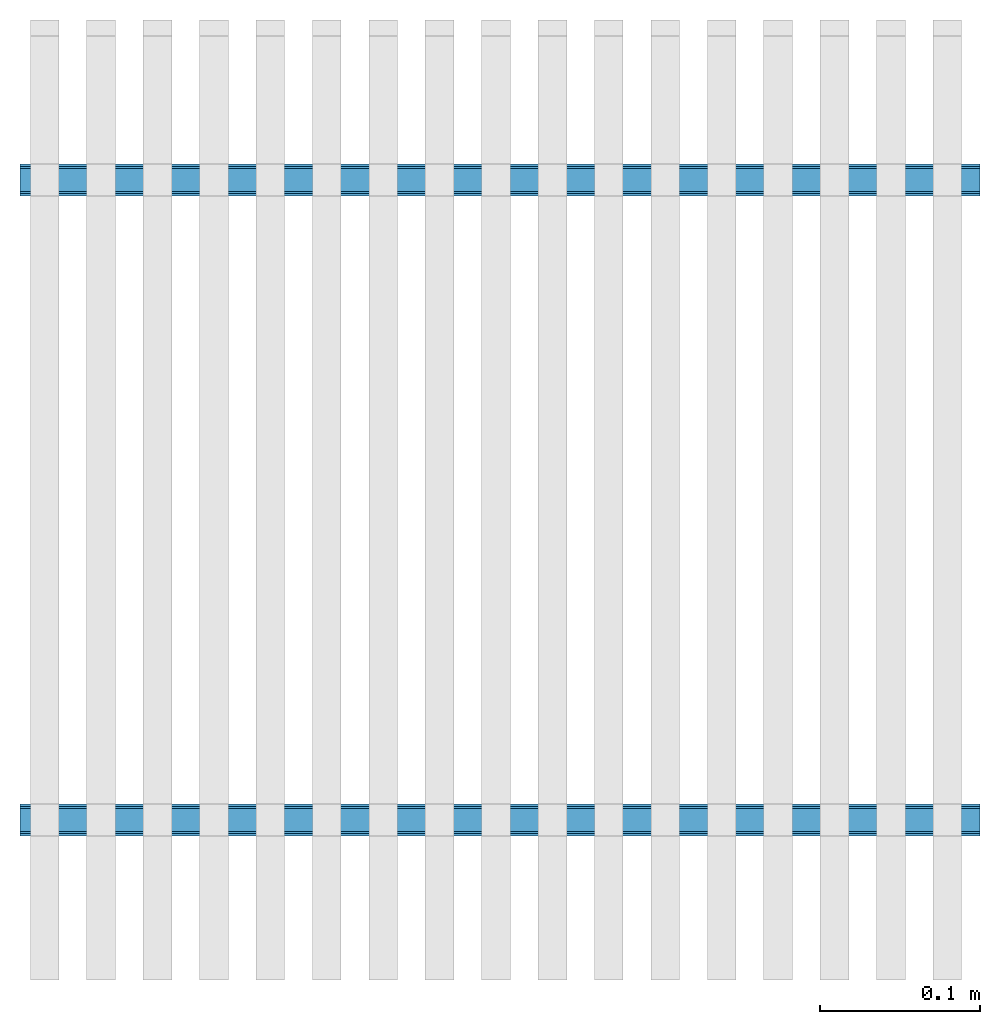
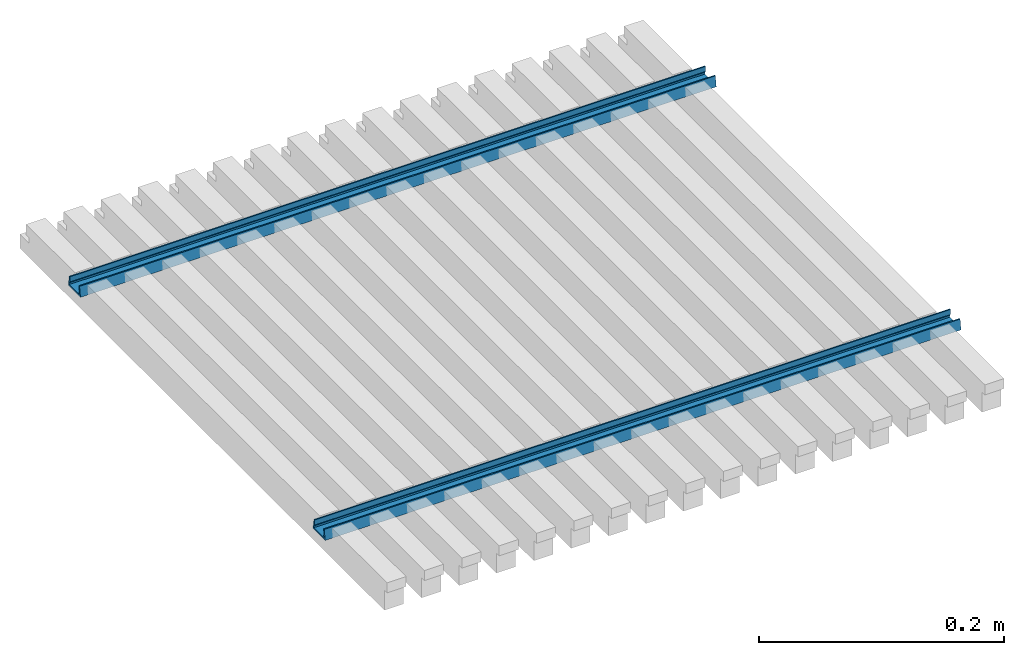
# One storey, part 1 of 3: 2 beams.
"""IFC2X3 building model written with IfcOpenShell, lengths in millimetres."""

from ifc_helpers import new_model, entity, si_unit, converted_unit, money_unit, direction, frame, origin_with_axes, place, context, subcontext, project, spatial, polyline, outline, extrude, material, type_object, element, save


model = new_model("IFC2X3")

# Units and contexts
model_context = context("Model", 3, precision=1e-05, world=origin_with_axes(), true_north=direction((0.0, 1.0)))
body_context = subcontext(model_context, "Body", "Model", "MODEL_VIEW")
ifc_project = project(units=[si_unit("LENGTHUNIT", "METRE", prefix="MILLI"), si_unit("AREAUNIT", "SQUARE_METRE"), si_unit("VOLUMEUNIT", "CUBIC_METRE"), converted_unit("PLANEANGLEUNIT", "DEGREE", entity("IfcPlaneAngleMeasure", 0.0174532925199), si_unit("PLANEANGLEUNIT", "RADIAN"), dimensions=[0, 0, 0, 0, 0, 0, 0]), si_unit("SOLIDANGLEUNIT", "STERADIAN"), money_unit("AUD"), si_unit("TIMEUNIT", "SECOND"), si_unit("MASSUNIT", "GRAM"), si_unit("THERMODYNAMICTEMPERATUREUNIT", "DEGREE_CELSIUS"), si_unit("LUMINOUSINTENSITYUNIT", "LUMEN")], contexts=[model_context])

# Site, building, storey
site_placement = place(None, origin_with_axes())
site = spatial("IfcSite", under=ifc_project, at=site_placement, Name="Site", CompositionType="ELEMENT")
building_placement = place(site_placement, origin_with_axes())
building = spatial("IfcBuilding", under=site, at=building_placement, Name="Building", CompositionType="ELEMENT")
storey_placement = place(building_placement, origin_with_axes())
storey = spatial("IfcBuildingStorey", under=building, at=storey_placement, Name="GROUND", CompositionType="ELEMENT", Elevation=0.0)

# Beams
ifc_material = material(Name="Brick - Internal Wall")
beam_type = type_object("IfcBeamType", Name="15MM GRID 20 x 10", PredefinedType="NOTDEFINED")
for number, where, z_axis, x_axis, name in (
    (1, (2.5, 500.0, -10.0), (0.0, 0.0, 1.0), (0.0, -1.0, 0.0), "BEAM-02"),
    (2, (2.5, 100.0, -10.0), (0.0, 0.0, 1.0), (0.0, -1.0, 0.0), "BEAM-02"),
):
    element("IfcBeam", number, at=place(storey_placement, frame(where, z_axis=z_axis, x_axis=x_axis)), inside=storey, type_object=beam_type, material=ifc_material, Name=name, ObjectType="15MM GRID 20 x 10", context=body_context, shape_type="SweptSolid", body=[
        extrude(outline(polyline([(10.0, 0.0), (8.5, 10.0), (7.26018347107, 10.0), (8.06268347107, 4.65), (7.26018347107, 3.5), (8.53518347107, 1.5), (-8.53518347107, 1.5), (-8.23518347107, 3.5), (-7.56832504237, 4.65), (-7.26018347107, 10.0), (-8.5, 10.0), (-10.0, 0.0), (10.0, 0.0)])), frame((0.0, 600.0, 0.0), z_axis=(0.0, -1.0, 0.0), x_axis=(1.0, 0.0, 0.0)), (0.0, 0.0, 1.0), 600.0),
    ])

save(model, "model.ifc")
